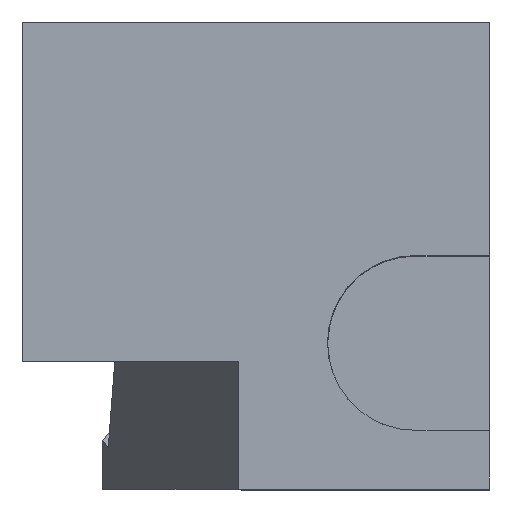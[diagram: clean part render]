
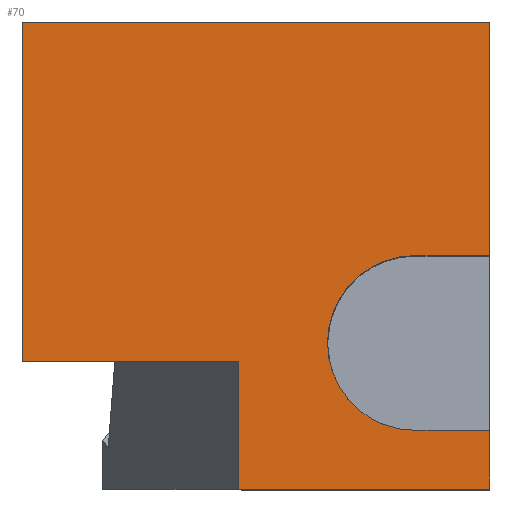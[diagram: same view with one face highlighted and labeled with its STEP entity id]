
A CAD part, top view. The second image highlights one B-rep face of the part: STEP entity #70.
In plain terms, the highlighted planar face has unit normal (0, 0, 1).
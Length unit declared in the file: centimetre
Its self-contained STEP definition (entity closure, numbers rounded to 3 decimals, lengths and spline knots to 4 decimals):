
#34 = CARTESIAN_POINT ( 'NONE',  ( 0., 0., 1000. ) ) ;
#36 = CARTESIAN_POINT ( 'NONE',  ( 461.9127, 0., 1000. ) ) ;
#38 = CARTESIAN_POINT ( 'NONE',  ( 461.9127, 274.117, 1000. ) ) ;
#53 = VERTEX_POINT ( 'NONE', #547 ) ;
#63 = PLANE ( 'NONE',  #117 ) ;
#69 = CARTESIAN_POINT ( 'NONE',  ( 0., 1000., 1000. ) ) ;
#70 = ADVANCED_FACE ( 'NONE', ( #488 ), #63, .T. ) ;
#78 = EDGE_CURVE ( 'NONE', #261, #344, #762, .T. ) ;
#82 = EDGE_LOOP ( 'NONE', ( #329, #674, #397, #423, #94, #886, #703, #724, #562, #265 ) ) ;
#85 = LINE ( 'NONE', #176, #835 ) ;
#94 = ORIENTED_EDGE ( 'NONE', *, *, #282, .F. ) ;
#117 = AXIS2_PLACEMENT_3D ( 'NONE', #541, #482, #205 ) ;
#153 = EDGE_CURVE ( 'NONE', #570, #215, #735, .T. ) ;
#156 = DIRECTION ( 'NONE',  ( 0., -1., 0. ) ) ;
#166 = VECTOR ( 'NONE', #548, 100. ) ;
#176 = CARTESIAN_POINT ( 'NONE',  ( 1000., 1000., 1000. ) ) ;
#179 = CARTESIAN_POINT ( 'NONE',  ( 1000., 0., 1000. ) ) ;
#180 = CARTESIAN_POINT ( 'NONE',  ( 1000., 126.1156, 1000. ) ) ;
#205 = DIRECTION ( 'NONE',  ( 1., 0., 0. ) ) ;
#211 = VECTOR ( 'NONE', #217, 100. ) ;
#215 = VERTEX_POINT ( 'NONE', #179 ) ;
#217 = DIRECTION ( 'NONE',  ( 1., 0., 0. ) ) ;
#232 = EDGE_CURVE ( 'NONE', #501, #53, #888, .T. ) ;
#234 = LINE ( 'NONE', #864, #211 ) ;
#240 = CARTESIAN_POINT ( 'NONE',  ( 0., 1000., 1000. ) ) ;
#253 = CARTESIAN_POINT ( 'NONE',  ( 0., 274.117, 1000. ) ) ;
#259 = DIRECTION ( 'NONE',  ( 0., 0., 1. ) ) ;
#261 = VERTEX_POINT ( 'NONE', #463 ) ;
#265 = ORIENTED_EDGE ( 'NONE', *, *, #232, .F. ) ;
#282 = EDGE_CURVE ( 'NONE', #786, #692, #662, .T. ) ;
#288 = EDGE_CURVE ( 'NONE', #501, #570, #707, .T. ) ;
#298 = CARTESIAN_POINT ( 'NONE',  ( 840.1018, 500., 1000. ) ) ;
#305 = CARTESIAN_POINT ( 'NONE',  ( 840.1018, 126.1156, 1000. ) ) ;
#318 = DIRECTION ( 'NONE',  ( -1., 0., 0. ) ) ;
#329 = ORIENTED_EDGE ( 'NONE', *, *, #288, .T. ) ;
#342 = CARTESIAN_POINT ( 'NONE',  ( 0., 1000., 1000. ) ) ;
#344 = VERTEX_POINT ( 'NONE', #69 ) ;
#348 = VECTOR ( 'NONE', #156, 100. ) ;
#355 = VECTOR ( 'NONE', #587, 100. ) ;
#357 = EDGE_CURVE ( 'NONE', #692, #481, #234, .T. ) ;
#397 = ORIENTED_EDGE ( 'NONE', *, *, #728, .T. ) ;
#423 = ORIENTED_EDGE ( 'NONE', *, *, #357, .F. ) ;
#443 = DIRECTION ( 'NONE',  ( -1., 0., 0. ) ) ;
#459 = CARTESIAN_POINT ( 'NONE',  ( 1000., 500., 1000. ) ) ;
#463 = CARTESIAN_POINT ( 'NONE',  ( 1000., 1000., 1000. ) ) ;
#481 = VERTEX_POINT ( 'NONE', #180 ) ;
#482 = DIRECTION ( 'NONE',  ( 0., 0., 1. ) ) ;
#488 = FACE_OUTER_BOUND ( 'NONE', #82, .T. ) ;
#501 = VERTEX_POINT ( 'NONE', #38 ) ;
#504 = DIRECTION ( 'NONE',  ( 0., -1., 0. ) ) ;
#510 = VECTOR ( 'NONE', #318, 100. ) ;
#541 = CARTESIAN_POINT ( 'NONE',  ( 0., 0., 1000. ) ) ;
#547 = CARTESIAN_POINT ( 'NONE',  ( 0., 274.117, 1000. ) ) ;
#548 = DIRECTION ( 'NONE',  ( 0., 1., 0. ) ) ;
#562 = ORIENTED_EDGE ( 'NONE', *, *, #768, .T. ) ;
#568 = DIRECTION ( 'NONE',  ( 0., 1., 0. ) ) ;
#570 = VERTEX_POINT ( 'NONE', #36 ) ;
#578 = VERTEX_POINT ( 'NONE', #459 ) ;
#583 = AXIS2_PLACEMENT_3D ( 'NONE', #903, #259, #682 ) ;
#587 = DIRECTION ( 'NONE',  ( 1., 0., 0. ) ) ;
#618 = VECTOR ( 'NONE', #699, 100. ) ;
#662 = CIRCLE ( 'NONE', #583, 186.9422 ) ;
#674 = ORIENTED_EDGE ( 'NONE', *, *, #153, .T. ) ;
#682 = DIRECTION ( 'NONE',  ( 1., 0., 0. ) ) ;
#692 = VERTEX_POINT ( 'NONE', #305 ) ;
#699 = DIRECTION ( 'NONE',  ( -1., 0., 0. ) ) ;
#703 = ORIENTED_EDGE ( 'NONE', *, *, #807, .T. ) ;
#707 = LINE ( 'NONE', #784, #873 ) ;
#724 = ORIENTED_EDGE ( 'NONE', *, *, #78, .T. ) ;
#728 = EDGE_CURVE ( 'NONE', #215, #481, #85, .T. ) ;
#735 = LINE ( 'NONE', #34, #355 ) ;
#762 = LINE ( 'NONE', #342, #618 ) ;
#765 = EDGE_CURVE ( 'NONE', #578, #786, #859, .T. ) ;
#768 = EDGE_CURVE ( 'NONE', #344, #53, #790, .T. ) ;
#770 = LINE ( 'NONE', #828, #166 ) ;
#784 = CARTESIAN_POINT ( 'NONE',  ( 461.9127, 274.117, 1000. ) ) ;
#786 = VERTEX_POINT ( 'NONE', #298 ) ;
#790 = LINE ( 'NONE', #240, #348 ) ;
#796 = CARTESIAN_POINT ( 'NONE',  ( 1000., 500., 1000. ) ) ;
#807 = EDGE_CURVE ( 'NONE', #578, #261, #770, .T. ) ;
#828 = CARTESIAN_POINT ( 'NONE',  ( 1000., 1000., 1000. ) ) ;
#835 = VECTOR ( 'NONE', #568, 100. ) ;
#845 = VECTOR ( 'NONE', #443, 100. ) ;
#859 = LINE ( 'NONE', #796, #845 ) ;
#864 = CARTESIAN_POINT ( 'NONE',  ( 840.1018, 126.1156, 1000. ) ) ;
#873 = VECTOR ( 'NONE', #504, 100. ) ;
#886 = ORIENTED_EDGE ( 'NONE', *, *, #765, .F. ) ;
#888 = LINE ( 'NONE', #253, #510 ) ;
#903 = CARTESIAN_POINT ( 'NONE',  ( 840.1018, 313.0578, 1000. ) ) ;
